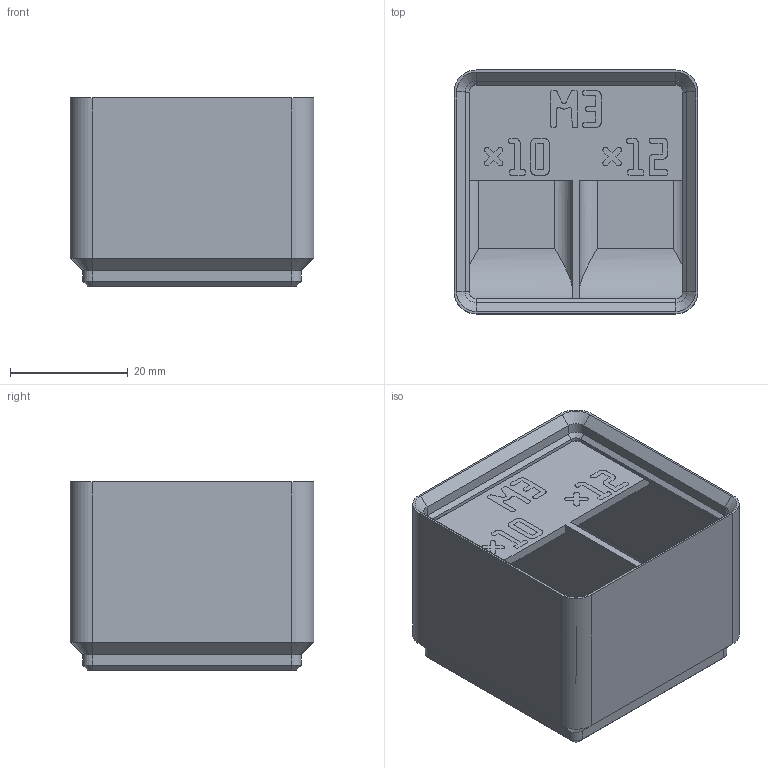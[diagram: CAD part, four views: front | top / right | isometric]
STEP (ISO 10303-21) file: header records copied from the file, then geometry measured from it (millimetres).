
FILE_DESCRIPTION(('Open CASCADE Model'),'2;1');
FILE_NAME('bin_M3_10-12','2026-11-03T10:52:15',('Author'),( 'Open CASCADE'),'Open CASCADE STEP processor 8.0','build123d', 'Unknown');
FILE_SCHEMA(('AUTOMOTIVE_DESIGN { 1 0 10303 214 1 1 1 1 }'));
Length unit declared in the file: millimetre
Products named in the file (3): bin_M3_10-12; M3_10-12_body; M3_10-12_label
Assembly tree (2 placements, depth 2):
  bin_M3_10-12
    M3_10-12_body
    M3_10-12_label
Bounding box: 41.5 x 41.5 x 32 mm (x, y, z)
Volume: 21988.3 mm3; surface area: 14201.3 mm2
Topology: 9 solids, 9 shells, 1662 faces, 4838 edges, 3204 vertices
Faces by surface type: plane 1618, cylinder 24, cone 20
Entity records: 116965 total; most frequent: CARTESIAN_POINT 20265, DIRECTION 17635, LINE 14186, VECTOR 14186, ORIENTED_EDGE 9676, PCURVE 9676, DEFINITIONAL_REPRESENTATION 9676, EDGE_CURVE 4838
